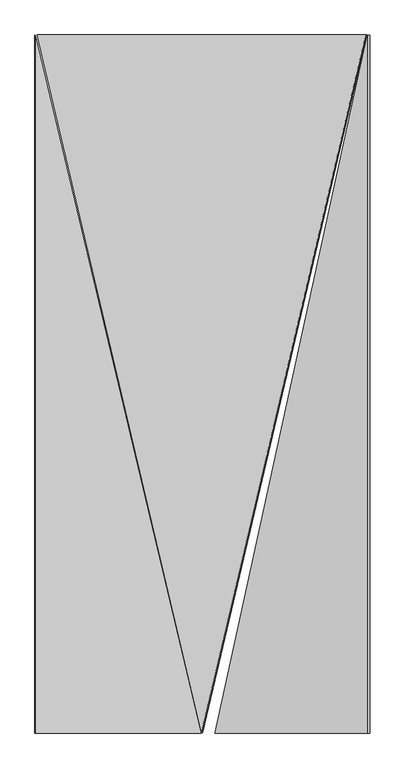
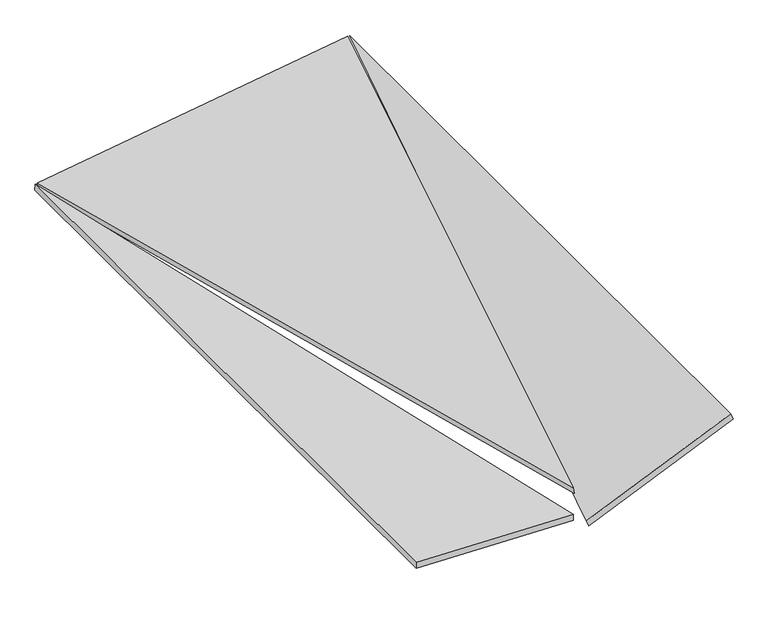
"""IFC4 building model written with IfcOpenShell, lengths in millimetres: proxy geometry, panel sufitowy 6 : panel sufitowy 6."""

from ifc_helpers import new_model, si_unit, frame, origin, place, context, project, spatial, polyline, outline, extrude, source, transform, mapped, element, save


def generic_models_444bb2c5(model_context):
    return source(origin(), model_context, "Body", "SweptSolid", [
        extrude(outline(polyline([(-900.9098917, 0.0), (1235.4098448, 0.0), (1006.190989, -962.7191945), (-900.9098917, 0.0)])), frame((548.5075406, -1457.4151922, 1266.4156755), z_axis=(-0.14780941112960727, 0.0, 0.9890158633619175), x_axis=(-0.22907637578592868, 0.9728062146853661, -0.03423569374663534)), (0.0, 0.0, 1.0), 20.0),
        extrude(outline(polyline([(-127.5, 0.0), (-622.5, 0.0), (-127.5, 2079.0), (-127.5, 0.0)])), frame((1370.9864149, -2335.0, 1422.701891), z_axis=(-0.398749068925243, 0.0, 0.9170600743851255), x_axis=(0.9170600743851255, 0.0, 0.398749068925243)), (0.0, 0.0, 1.0), 20.0),
        extrude(outline(polyline([(-127.5000001, 0.0), (-127.5000001, -2079.0), (-622.5, 0.0), (-127.5000001, 0.0)])), frame((127.6989244, -2335.0, 1225.9114404), z_axis=(0.02617694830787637, 0.0, 0.9996573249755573), x_axis=(-0.9996573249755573, 0.0, 0.02617694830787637)), (0.0, 0.0, 1.0), 20.0),
    ])


if __name__ == "__main__":
    model = new_model("IFC4")
    model_context = context("Model", 3, world=origin())
    ifc_project = project(units=[si_unit("LENGTHUNIT", "METRE", prefix="MILLI")], contexts=[model_context])
    site = spatial("IfcSite", under=ifc_project)
    building = spatial("IfcBuilding", under=site)
    placement = place(None, origin())
    generic_models_shape = generic_models_444bb2c5(model_context)
    element("IfcBuildingElementProxy", 1, Name="panel sufitowy 6 : panel sufitowy 6", ObjectType="panel sufitowy 6 : panel sufitowy 6", at=placement, inside=building, context=model_context, shape_type="MappedRepresentation", body=[
        mapped(generic_models_shape, transform((0.0, 0.0, 0.0), x_axis=(1.0, 0.0, 0.0), y_axis=(0.0, 1.0, 0.0), z_axis=(0.0, 0.0, 1.0))),
    ])
    save(model, "model.ifc")
